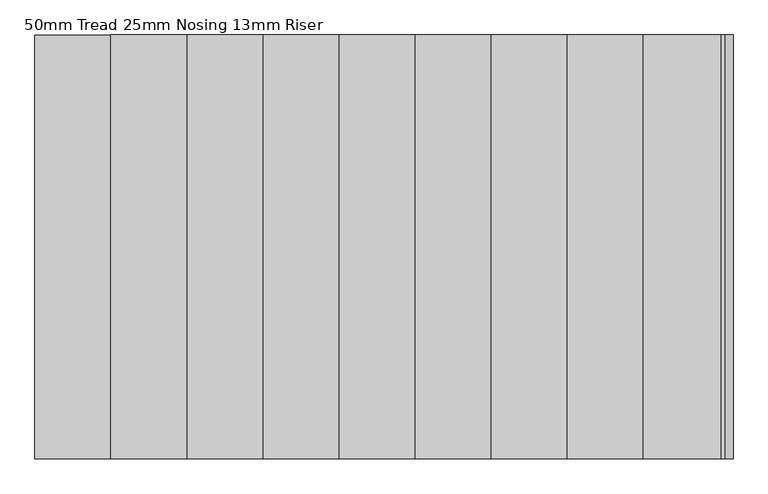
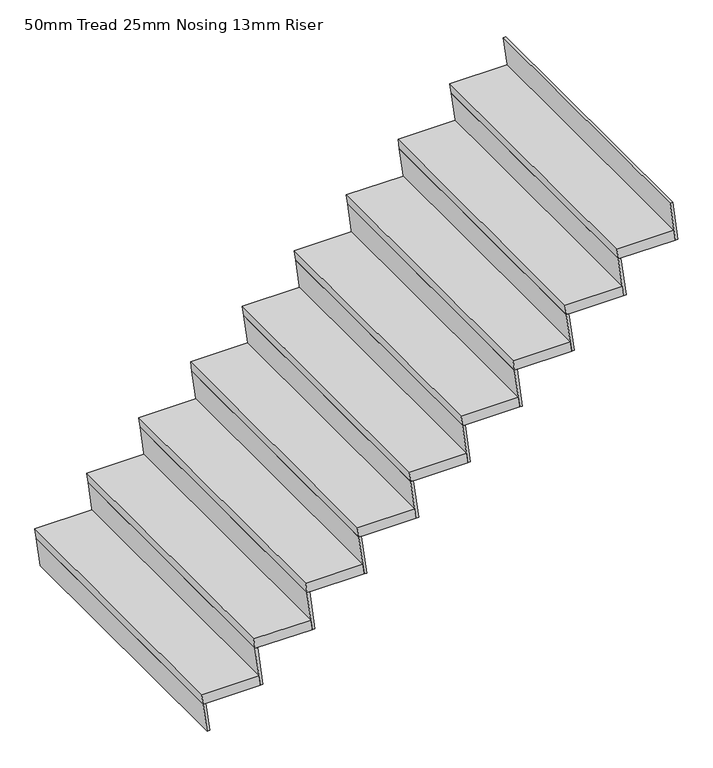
"""IFC4 building model written with IfcOpenShell, lengths in millimetres: stair flight geometry, 50mm Tread 25mm Nosing 13mm Riser."""

from ifc_helpers import new_model, si_unit, frame, origin, place, context, project, spatial, polyline, outline, extrude, source, transform, mapped, element, save


def stair_flight_50mm_tread_25mm_nosing_13mm_riser_dd2ab24c(model_context):
    return source(origin(), model_context, "Body", "SweptSolid", [
        extrude(outline(polyline([(-1737.36, 10316.0629591), (-1737.36, 10044.7927319), (-1787.36, 10051.2680738), (-1787.36, 10322.538301), (-1737.36, 10316.0629591)])), frame((0.0, 15867.3909405, 0.0), z_axis=(0.0, 1.0, 0.0), x_axis=(0.0, 0.0, 1.0)), (0.0, 0.0, 1.0), 1371.6),
        extrude(outline(polyline([(-1787.36, 10051.2680738), (-1930.4, 10069.7927319), (-1930.4, 10082.3971211), (-1787.36, 10063.872463), (-1787.36, 10051.2680738)])), frame((0.0, 15867.3909405, 0.0), z_axis=(0.0, 1.0, 0.0), x_axis=(0.0, 0.0, 1.0)), (0.0, 0.0, 1.0), 1371.6),
        extrude(outline(polyline([(-1594.32, 10297.538301), (-1787.36, 10322.538301), (-1787.36, 10335.1426903), (-1594.32, 10310.1426903), (-1594.32, 10297.538301)])), frame((0.0, 15867.3909405, 0.0), z_axis=(0.0, 1.0, 0.0), x_axis=(0.0, 0.0, 1.0)), (0.0, 0.0, 1.0), 1371.6),
        extrude(outline(polyline([(-1544.32, 10562.3331864), (-1544.32, 10291.0629591), (-1594.32, 10297.538301), (-1594.32, 10568.8085283), (-1544.32, 10562.3331864)])), frame((0.0, 15867.3909405, 0.0), z_axis=(0.0, 1.0, 0.0), x_axis=(0.0, 0.0, 1.0)), (0.0, 0.0, 1.0), 1371.6),
        extrude(outline(polyline([(-1401.28, 10543.8085283), (-1594.32, 10568.8085283), (-1594.32, 10581.4129176), (-1401.28, 10556.4129176), (-1401.28, 10543.8085283)])), frame((0.0, 15867.3909405, 0.0), z_axis=(0.0, 1.0, 0.0), x_axis=(0.0, 0.0, 1.0)), (0.0, 0.0, 1.0), 1371.6),
        extrude(outline(polyline([(-1351.28, 10808.6034137), (-1351.28, 10537.3331864), (-1401.28, 10543.8085283), (-1401.28, 10815.0787556), (-1351.28, 10808.6034137)])), frame((0.0, 15867.3909405, 0.0), z_axis=(0.0, 1.0, 0.0), x_axis=(0.0, 0.0, 1.0)), (0.0, 0.0, 1.0), 1371.6),
        extrude(outline(polyline([(-1208.24, 10790.0787556), (-1401.28, 10815.0787556), (-1401.28, 10827.6831448), (-1208.24, 10802.6831448), (-1208.24, 10790.0787556)])), frame((0.0, 15867.3909405, 0.0), z_axis=(0.0, 1.0, 0.0), x_axis=(0.0, 0.0, 1.0)), (0.0, 0.0, 1.0), 1371.6),
        extrude(outline(polyline([(-1158.24, 11054.873641), (-1158.24, 10783.6034137), (-1208.24, 10790.0787556), (-1208.24, 11061.3489829), (-1158.24, 11054.873641)])), frame((0.0, 15867.3909405, 0.0), z_axis=(0.0, 1.0, 0.0), x_axis=(0.0, 0.0, 1.0)), (0.0, 0.0, 1.0), 1371.6),
        extrude(outline(polyline([(-1015.2, 11036.3489829), (-1208.24, 11061.3489829), (-1208.24, 11073.9533721), (-1015.2, 11048.9533721), (-1015.2, 11036.3489829)])), frame((0.0, 15867.3909405, 0.0), z_axis=(0.0, 1.0, 0.0), x_axis=(0.0, 0.0, 1.0)), (0.0, 0.0, 1.0), 1371.6),
        extrude(outline(polyline([(-965.2, 11301.1438682), (-965.2, 11029.873641), (-1015.2, 11036.3489829), (-1015.2, 11307.6192101), (-965.2, 11301.1438682)])), frame((0.0, 15867.3909405, 0.0), z_axis=(0.0, 1.0, 0.0), x_axis=(0.0, 0.0, 1.0)), (0.0, 0.0, 1.0), 1371.6),
        extrude(outline(polyline([(-822.16, 11282.6192101), (-1015.2, 11307.6192101), (-1015.2, 11320.2235994), (-822.16, 11295.2235994), (-822.16, 11282.6192101)])), frame((0.0, 15867.3909405, 0.0), z_axis=(0.0, 1.0, 0.0), x_axis=(0.0, 0.0, 1.0)), (0.0, 0.0, 1.0), 1371.6),
        extrude(outline(polyline([(-772.16, 11547.4140955), (-772.16, 11276.1438682), (-822.16, 11282.6192101), (-822.16, 11553.8894374), (-772.16, 11547.4140955)])), frame((0.0, 15867.3909405, 0.0), z_axis=(0.0, 1.0, 0.0), x_axis=(0.0, 0.0, 1.0)), (0.0, 0.0, 1.0), 1371.6),
        extrude(outline(polyline([(-629.12, 11528.8894374), (-822.16, 11553.8894374), (-822.16, 11566.4938266), (-629.12, 11541.4938266), (-629.12, 11528.8894374)])), frame((0.0, 15867.3909405, 0.0), z_axis=(0.0, 1.0, 0.0), x_axis=(0.0, 0.0, 1.0)), (0.0, 0.0, 1.0), 1371.6),
        extrude(outline(polyline([(-579.12, 11793.6843228), (-579.12, 11522.4140955), (-629.12, 11528.8894374), (-629.12, 11800.1596647), (-579.12, 11793.6843228)])), frame((0.0, 15867.3909405, 0.0), z_axis=(0.0, 1.0, 0.0), x_axis=(0.0, 0.0, 1.0)), (0.0, 0.0, 1.0), 1371.6),
        extrude(outline(polyline([(-436.08, 11775.1596647), (-629.12, 11800.1596647), (-629.12, 11812.7640539), (-436.08, 11787.7640539), (-436.08, 11775.1596647)])), frame((0.0, 15867.3909405, 0.0), z_axis=(0.0, 1.0, 0.0), x_axis=(0.0, 0.0, 1.0)), (0.0, 0.0, 1.0), 1371.6),
        extrude(outline(polyline([(-386.08, 12039.95455), (-386.08, 11768.6843228), (-436.08, 11775.1596647), (-436.08, 12046.4298919), (-386.08, 12039.95455)])), frame((0.0, 15867.3909405, 0.0), z_axis=(0.0, 1.0, 0.0), x_axis=(0.0, 0.0, 1.0)), (0.0, 0.0, 1.0), 1371.6),
        extrude(outline(polyline([(-243.04, 12021.4298919), (-436.08, 12046.4298919), (-436.08, 12059.0342812), (-243.04, 12034.0342812), (-243.04, 12021.4298919)])), frame((0.0, 15867.3909405, 0.0), z_axis=(0.0, 1.0, 0.0), x_axis=(0.0, 0.0, 1.0)), (0.0, 0.0, 1.0), 1371.6),
        extrude(outline(polyline([(-50.0, 12267.7001192), (-243.04, 12292.7001192), (-243.04, 12305.3045085), (-50.0, 12280.3045085), (-50.0, 12267.7001192)])), frame((0.0, 15867.3909405, 0.0), z_axis=(0.0, 1.0, 0.0), x_axis=(0.0, 0.0, 1.0)), (0.0, 0.0, 1.0), 1371.6),
        extrude(outline(polyline([(-193.04, 12286.2247773), (-193.04, 12014.95455), (-243.04, 12021.4298919), (-243.04, 12292.7001192), (-193.04, 12286.2247773)])), frame((0.0, 15867.3909405, 0.0), z_axis=(0.0, 1.0, 0.0), x_axis=(0.0, 0.0, 1.0)), (0.0, 0.0, 1.0), 1371.6),
    ])


if __name__ == "__main__":
    model = new_model("IFC4")
    model_context = context("Model", 3, world=origin())
    ifc_project = project(units=[si_unit("LENGTHUNIT", "METRE", prefix="MILLI")], contexts=[model_context])
    site = spatial("IfcSite", under=ifc_project)
    building = spatial("IfcBuilding", under=site)
    placement = place(None, origin())
    stair_flight_50mm_tread_25mm_nosing_13mm_riser_shape = stair_flight_50mm_tread_25mm_nosing_13mm_riser_dd2ab24c(model_context)
    element("IfcStairFlight", 1, ObjectType="50mm Tread 25mm Nosing 13mm Riser", at=placement, inside=building, context=model_context, shape_type="MappedRepresentation", body=[
        mapped(stair_flight_50mm_tread_25mm_nosing_13mm_riser_shape, transform((0.0, 0.0, 0.0), x_axis=(1.0, 0.0, 0.0), y_axis=(0.0, 1.0, 0.0), z_axis=(0.0, 0.0, 1.0))),
    ])
    save(model, "model.ifc")
